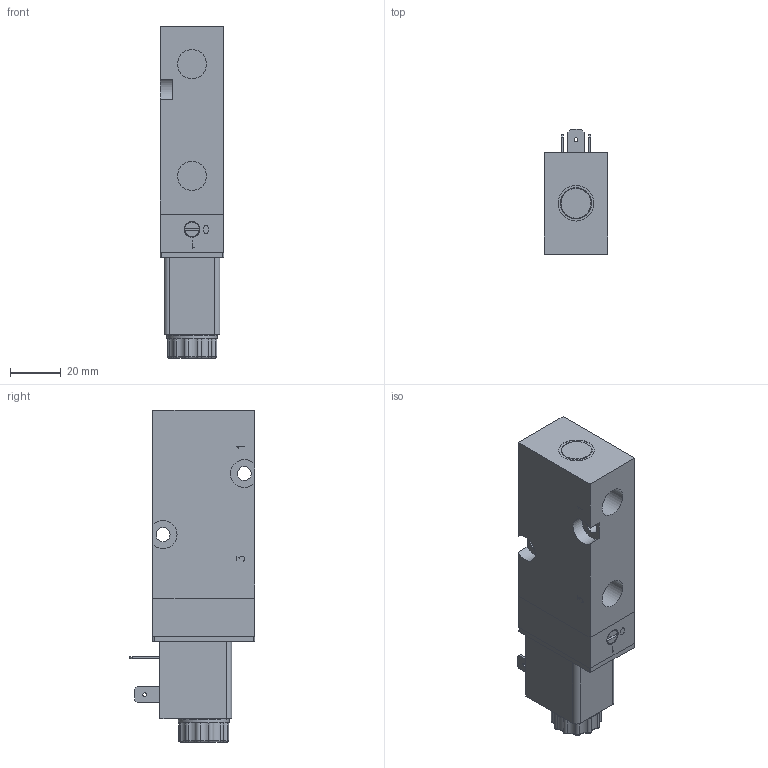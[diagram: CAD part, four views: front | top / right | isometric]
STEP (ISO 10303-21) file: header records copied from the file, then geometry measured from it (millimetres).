
FILE_DESCRIPTION (( 'STEP AP214' ), '1' );
FILE_NAME ('ICKN-55-310-HN-F12_Airtec.step', '2019-01-08T09:17:21', ( '' ), ( '' ), 'SwSTEP 2.0', 'SolidWorks 2010', '' );
FILE_SCHEMA (( 'AUTOMOTIVE_DESIGN' ));
Length unit declared in the file: millimetre
Products named in the file (3): Volumenkörper6; Volumenkörper1; ICKN-55-310-HN-F12_Airtec
Assembly tree (2 placements, depth 2):
  ICKN-55-310-HN-F12_Airtec
    Volumenkörper6
    Volumenkörper1
Bounding box: 25 x 49.2 x 130.6 mm (x, y, z)
Volume: 107056.6 mm3; surface area: 24162.9 mm2
Topology: 2 solids, 2 shells, 411 faces, 1041 edges, 667 vertices
Faces by surface type: plane 213, cylinder 85, cone 50, torus 49, bspline 14
Full cylindrical faces by diameter (mm): 1.5 x3, 2.459 x1, 5.1 x4, 5.5 x3, 7.5 x4, 8 x1, 8.15 x1, 9.04 x2, 9.1 x1, 11.445 x2, 12 x1, 14 x1, 15 x1, 16.6 x1, 20 x3
Entity records: 16467 total; most frequent: CARTESIAN_POINT 3743, DIRECTION 1992, ORIENTED_EDGE 1964, EDGE_CURVE 982, AXIS2_PLACEMENT_3D 734, VERTEX_POINT 656, VECTOR 524, LINE 524
